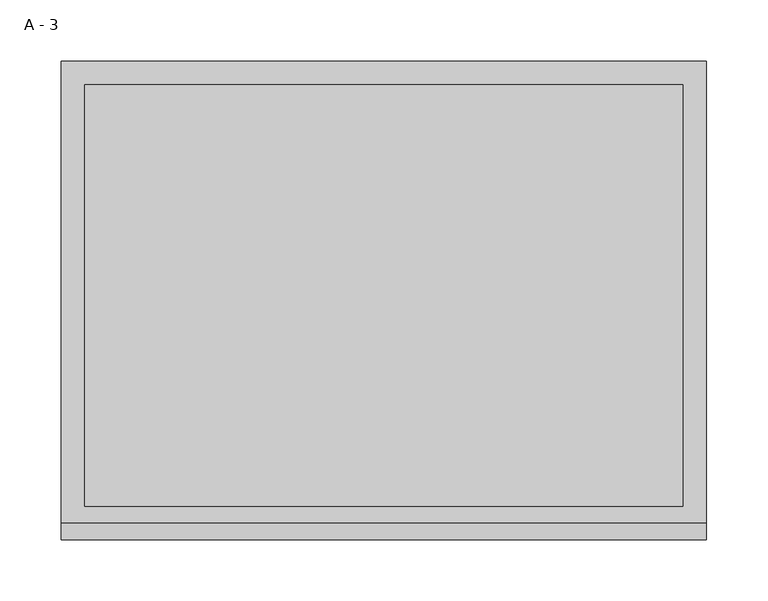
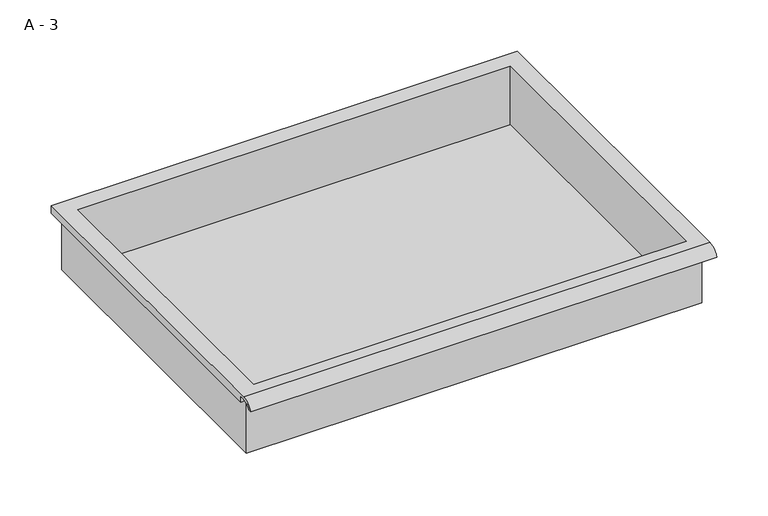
"""IFC4 building model written with IfcOpenShell, lengths in millimetres: furniture geometry, HermanMiller_CoStruc_CO207_Drawer : A - 3."""

from ifc_helpers import new_model, si_unit, frame, origin, place, context, project, spatial, polyline, circle_curve, source, transform, mapped, element, save
from ifc_brep_helpers import plane_surface, cylinder_surface, revolved_surface, advanced_brep


def a_3_76b2af0c(model_context):
    return source(origin(), model_context, "Body", "AdvancedBrep", [
        advanced_brep(
        [(-257.1076517, -176.2125, 1143.0889), (257.2423483, -176.2125, 1143.0889), (257.2423483, -176.2125, 1206.5889), (263.5923483, -176.2125, 1206.5889), (263.5923483, -176.2125, 1212.8960341), (-263.4576517, -176.2125, 1212.8960341), (-263.4576517, -176.2125, 1206.5889), (-257.1076517, -176.2125, 1206.5889), (257.2423483, 185.7375, 1143.0889), (-257.1076517, 185.7375, 1143.0889), (-257.1076517, 185.7375, 1206.5889), (257.2423483, 185.7375, 1206.5889), (263.5923483, -181.6070544, 1216.1139), (263.5923483, 195.2625, 1216.1139), (-263.4576517, 195.2625, 1216.1139), (-263.4576517, -181.6070544, 1216.1139), (244.5423483, -168.275, 1216.1139), (-244.4076517, -168.275, 1216.1139), (-244.4076517, 176.2125, 1216.1139), (244.5423483, 176.2125, 1216.1139), (263.5923483, -195.2625, 1206.5889), (263.5923483, -191.8280601, 1206.5889), (263.5923483, -180.4714815, 1212.8960341), (263.5923483, 195.2625, 1206.5889), (-263.4576517, 195.2625, 1206.5889), (-263.4576517, -180.4714815, 1212.8960341), (-263.4576517, -191.8280601, 1206.5889), (-263.4576517, -195.2625, 1206.5889), (-244.4076517, -168.275, 1146.1150719), (244.5423483, -168.275, 1146.1150719), (244.5423483, 176.2125, 1146.1150719), (-244.4076517, 176.2125, 1146.1150719)],
        [
            (0, 1),
            (1, 2),
            (2, 3),
            (3, 4),
            (4, 5),
            (5, 6),
            (6, 7),
            (7, 0),
            (8, 9),
            (9, 10),
            (10, 11),
            (11, 8),
            (0, 9),
            (8, 1),
            (11, 2),
            (12, 13),
            (13, 14),
            (14, 15),
            (15, 12),
            (16, 17),
            (17, 18),
            (18, 19),
            (19, 16),
            (7, 10),
            (12, 20, circle_curve(frame((263.5923483, -181.6070544, 1201.5628859), z_axis=(1.0, 0.0, 0.0), x_axis=(0.0, 1.0, 0.0)), 14.5510141)),
            (20, 21),
            (21, 22, circle_curve(frame((263.5923483, -181.6070544, 1201.5628859), z_axis=(-1.0, 0.0, 0.0), x_axis=(0.0, 1.0, 0.0)), 11.3898979)),
            (22, 4),
            (3, 23),
            (23, 13),
            (14, 24),
            (24, 6),
            (5, 25),
            (25, 26, circle_curve(frame((-263.4576517, -181.6070544, 1201.5628859), z_axis=(1.0, 0.0, 0.0), x_axis=(0.0, 1.0, 0.0)), 11.3898979)),
            (26, 27),
            (27, 15, circle_curve(frame((-263.4576517, -181.6070544, 1201.5628859), z_axis=(-1.0, 0.0, 0.0), x_axis=(0.0, 1.0, 0.0)), 14.5510141)),
            (27, 20),
            (26, 21),
            (25, 22),
            (24, 23),
            (28, 29),
            (29, 30),
            (30, 31),
            (31, 28),
            (28, 17),
            (16, 29),
            (19, 30),
            (18, 31),
        ],
        [
            plane_surface(frame((257.2423483, -176.2125, 1143.0889), z_axis=(0.0, -1.0, 0.0), x_axis=(1.0, 0.0, 0.0))),
            plane_surface(frame((257.2423483, 185.7375, 1143.0889), z_axis=(0.0, 1.0, 0.0), x_axis=(-1.0, 0.0, 0.0))),
            plane_surface(frame((-257.1076517, -176.2125, 1143.0889), z_axis=(0.0, 0.0, -1.0), x_axis=(0.0, 1.0, 0.0))),
            plane_surface(frame((257.2423483, -176.2125, 1143.0889), z_axis=(1.0, 0.0, 0.0), x_axis=(0.0, 1.0, 0.0))),
            plane_surface(frame((257.2423483, -176.2125, 1216.1139), z_axis=(0.0, 0.0, 1.0), x_axis=(0.0, 1.0, 0.0))),
            plane_surface(frame((-257.1076517, -176.2125, 1216.1139), z_axis=(-1.0, 0.0, 0.0), x_axis=(0.0, 1.0, 0.0))),
            plane_surface(frame((263.5923483, 195.2625, 1216.1139), z_axis=(1.0, 0.0, 0.0), x_axis=(0.0, -1.0, 0.0))),
            plane_surface(frame((-263.4576517, 195.2625, 1216.1139), z_axis=(-1.0, 0.0, 0.0), x_axis=(0.0, 1.0, 0.0))),
            cylinder_surface(frame((-263.4576517, -181.6070544, 1201.5628859), z_axis=(1.0, 0.0, 0.0), x_axis=(0.0, 1.0, 0.0)), 14.5510141),
            plane_surface(frame((263.5923483, -195.2625, 1206.5889), z_axis=(0.0, -7.251821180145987e-12, -1.0), x_axis=(-1.0, 0.0, 0.0))),
            revolved_surface(polyline([(-263.4576517, -170.21715650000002, 1201.5628859), (263.59234829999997, -170.21715650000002, 1201.5628859)]), (-263.4576517, -181.6070544, 1201.5628859), (-1.0, 0.0, 0.0)),
            plane_surface(frame((263.5923483, -180.4714815, 1212.8960341), z_axis=(0.0, -1.7988537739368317e-11, -1.0), x_axis=(-1.0, 0.0, 0.0))),
            plane_surface(frame((263.5923483, -176.2125, 1206.5889), z_axis=(0.0, 0.0, -1.0), x_axis=(-1.0, 0.0, 0.0))),
            plane_surface(frame((263.5923483, 195.2625, 1206.5889), z_axis=(0.0, 1.0, 0.0), x_axis=(-1.0, 0.0, 0.0))),
            plane_surface(frame((244.5423483, -168.275, 1146.1150719), z_axis=(0.0, 0.0, 1.0), x_axis=(-1.0, 0.0, 0.0))),
            plane_surface(frame((-244.4076517, -168.275, 1216.1139), z_axis=(0.0, 1.0, 0.0), x_axis=(0.0, 0.0, -1.0))),
            plane_surface(frame((244.5423483, -168.275, 1216.1139), z_axis=(-1.0, 0.0, 0.0), x_axis=(0.0, 0.0, -1.0))),
            plane_surface(frame((244.5423483, 176.2125, 1216.1139), z_axis=(0.0, -1.0, 0.0), x_axis=(0.0, 0.0, -1.0))),
            plane_surface(frame((-244.4076517, 176.2125, 1216.1139), z_axis=(1.0, 0.0, 0.0), x_axis=(0.0, 0.0, -1.0))),
        ],
        [
            (0, [[1, 2, 3, 4, 5, 6, 7, 8]]),
            (1, [[9, 10, 11, 12]]),
            (2, [[-1, 13, -9, 14]]),
            (3, [[-14, -12, 15, -2]]),
            (4, [[16, 17, 18, 19], [20, 21, 22, 23]]),
            (5, [[-13, -8, 24, -10]]),
            (6, [[-16, 25, 26, 27, 28, -4, 29, 30]]),
            (7, [[31, 32, -6, 33, 34, 35, 36, -18]]),
            (8, [[-25, -19, -36, 37]]),
            (9, [[-26, -37, -35, 38]]),
            (10, [[-27, -38, -34, 39]]),
            (11, [[-28, -39, -33, -5]]),
            (12, [[-29, -3, -15, -11, -24, -7, -32, 40]]),
            (13, [[-30, -40, -31, -17]]),
            (14, [[41, 42, 43, 44]]),
            (15, [[-41, 45, -20, 46]]),
            (16, [[-42, -46, -23, 47]]),
            (17, [[-43, -47, -22, 48]]),
            (18, [[-44, -48, -21, -45]]),
        ],
    ),
    ])


if __name__ == "__main__":
    model = new_model("IFC4")
    model_context = context("Model", 3, world=origin())
    ifc_project = project(units=[si_unit("LENGTHUNIT", "METRE", prefix="MILLI")], contexts=[model_context])
    site = spatial("IfcSite", under=ifc_project)
    building = spatial("IfcBuilding", under=site)
    placement = place(None, origin())
    a_3_shape = a_3_76b2af0c(model_context)
    element("IfcFurniture", 1, ObjectType="HermanMiller_CoStruc_CO207_Drawer : A - 3", at=placement, inside=building, context=model_context, shape_type="MappedRepresentation", body=[
        mapped(a_3_shape, transform((0.0, 0.0, 0.0), x_axis=(1.0, 0.0, 0.0), y_axis=(0.0, 1.0, 0.0), z_axis=(0.0, 0.0, 1.0))),
    ])
    save(model, "model.ifc")
